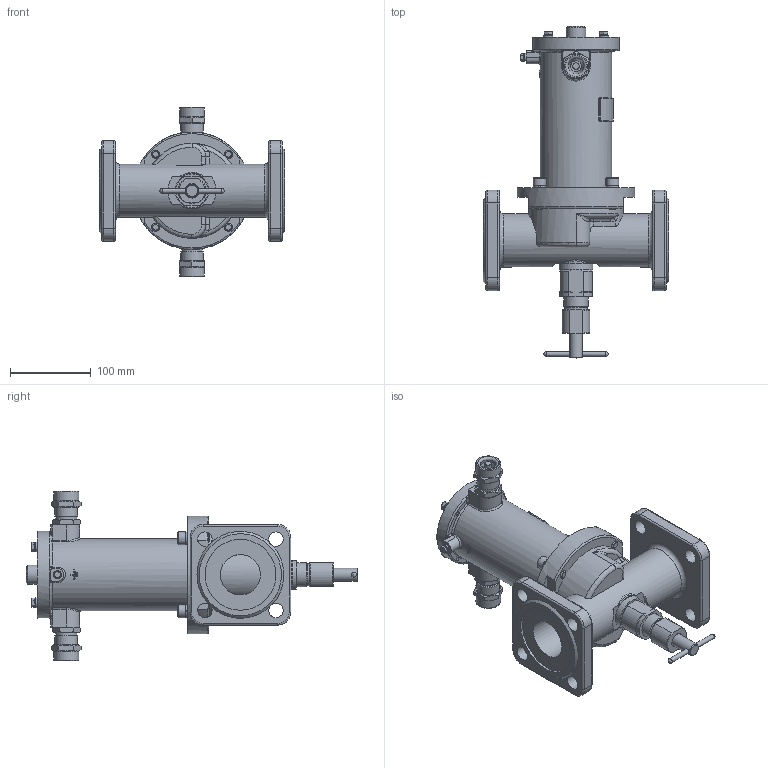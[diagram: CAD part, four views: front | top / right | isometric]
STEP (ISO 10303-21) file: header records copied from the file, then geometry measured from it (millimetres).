
FILE_DESCRIPTION(('STEP AP203'), '1');
FILE_NAME('捇迕 DN50PN25-捔.stp', '2018-11-19T06:31:32', ('u'), ($), 'ASCON STEP Converter 1.3', 'Kompas 3D', '');
FILE_SCHEMA(('CONFIG_CONTROL_DESIGN','SUPPORT_RESOURCE_SCHEMA'));
Length unit declared in the file: millimetre
Products named in the file (1): 2
Bounding box: 230 x 412.3 x 211 mm (x, y, z)
Volume: 1636654.4 mm3; surface area: 398579.9 mm2
Topology: 2 solids, 18 shells, 1958 faces, 5212 edges, 3370 vertices
Faces by surface type: cylinder 1001, plane 724, cone 126, torus 48, bspline 39, extrusion 16, sphere 4
Full cylindrical faces by diameter (mm): 3.5 x2, 4.134 x1, 4.917 x4, 5 x1, 6 x10, 6.5 x4, 8 x8, 10 x9, 11 x4, 12 x4, 13 x2, 16 x6, 17 x2, 18 x9, 20 x4, 20.9 x1, 22 x2, 22.376 x2, 23 x1, 23.5 x2, 24 x3, 24.5 x2, 26 x4, 26.376 x2, 27.8 x1, 28 x3, 28.5 x2, 30 x2, 31 x2, 42 x1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
Entity records: 75899 total; most frequent: CARTESIAN_POINT 26013, DIRECTION 10841, ORIENTED_EDGE 10370, EDGE_CURVE 5185, AXIS2_PLACEMENT_3D 4160, VERTEX_POINT 3370, VECTOR 2521, LINE 2505
